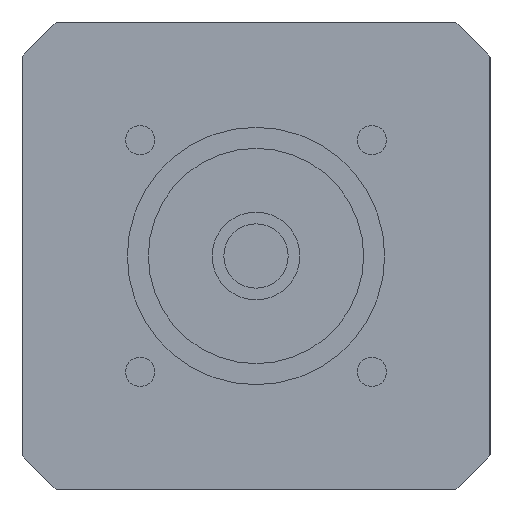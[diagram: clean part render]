
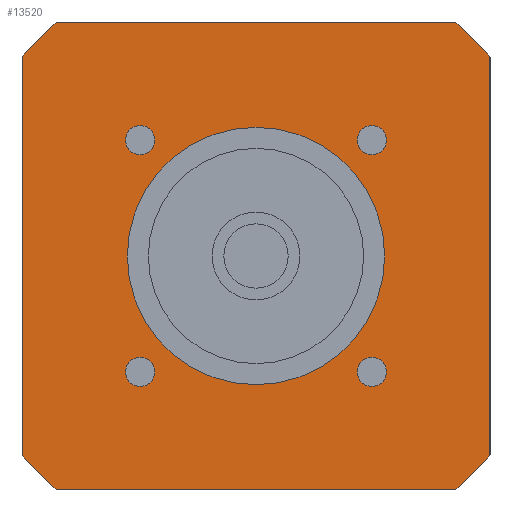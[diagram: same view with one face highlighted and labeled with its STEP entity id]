
A CAD part, left-side view. The second image highlights one B-rep face of the part: STEP entity #13520.
In plain terms, the highlighted planar face has unit normal (-1, 0, 0) as drawn and (0, 0, -1) by its records, which use the part's own axes.
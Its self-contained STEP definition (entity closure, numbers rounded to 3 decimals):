
#8660=CARTESIAN_POINT('',(40.,-34.004,-44.2));
#8670=VERTEX_POINT('',#8660);
#8700=CARTESIAN_POINT('',(0.,0.,
-44.2));
#8710=DIRECTION('',(0.,0.,1.));
#8720=DIRECTION('',(1.,0.,0.));
#8730=AXIS2_PLACEMENT_3D('',#8700,#8710,#8720);
#8740=CIRCLE('',#8730,52.5);
#8750=CARTESIAN_POINT('',(34.004,-40.,-44.2));
#8760=VERTEX_POINT('',#8750);
#8770=EDGE_CURVE('',#8760,#8670,#8740,.T.);
#9080=CARTESIAN_POINT('',(-34.004,-40.,-44.2));
#9090=VERTEX_POINT('',#9080);
#9190=CARTESIAN_POINT('',(-40.,-40.,-44.2));
#9200=DIRECTION('',(1.,0.,0.));
#9210=VECTOR('',#9200,1000.);
#9220=LINE('',#9190,#9210);
#9230=EDGE_CURVE('',#9090,#8760,#9220,.T.);
#11860=CARTESIAN_POINT('',(40.,34.004,-44.2));
#11870=VERTEX_POINT('',#11860);
#11950=CARTESIAN_POINT('',(34.004,40.,-44.2));
#11960=VERTEX_POINT('',#11950);
#11990=CARTESIAN_POINT('',(0.,0.,
-44.2));
#12000=DIRECTION('',(0.,0.,1.));
#12010=DIRECTION('',(1.,0.,0.));
#12020=AXIS2_PLACEMENT_3D('',#11990,#12000,#12010);
#12030=CIRCLE('',#12020,52.5);
#12040=EDGE_CURVE('',#11870,#11960,#12030,.T.);
#12090=CARTESIAN_POINT('',(40.,40.,-44.2));
#12100=DIRECTION('',(0.,0.,1.));
#12110=DIRECTION('',(0.,1.,0.));
#12120=AXIS2_PLACEMENT_3D('',#12090,#12100,#12110);
#12130=PLANE('',#12120);
#12140=CARTESIAN_POINT('',(0.,0.,
-44.2));
#12150=DIRECTION('',(0.,0.,1.));
#12160=DIRECTION('',(1.,0.,0.));
#12170=AXIS2_PLACEMENT_3D('',#12140,#12150,#12160);
#12180=CIRCLE('',#12170,52.5);
#12190=CARTESIAN_POINT('',(-34.004,40.,-44.2));
#12200=VERTEX_POINT('',#12190);
#12210=CARTESIAN_POINT('',(-40.,34.004,-44.2));
#12220=VERTEX_POINT('',#12210);
#12230=EDGE_CURVE('',#12200,#12220,#12180,.T.);
#12240=ORIENTED_EDGE('',*,*,#12230,.F.);
#12250=CARTESIAN_POINT('',(-40.,40.,-44.2));
#12260=DIRECTION('',(0.,-1.,0.));
#12270=VECTOR('',#12260,1000.);
#12280=LINE('',#12250,#12270);
#12290=CARTESIAN_POINT('',(-40.,-34.004,-44.2));
#12300=VERTEX_POINT('',#12290);
#12310=EDGE_CURVE('',#12220,#12300,#12280,.T.);
#12320=ORIENTED_EDGE('',*,*,#12310,.F.);
#12330=CARTESIAN_POINT('',(0.,0.,
-44.2));
#12340=DIRECTION('',(0.,0.,1.));
#12350=DIRECTION('',(1.,0.,0.));
#12360=AXIS2_PLACEMENT_3D('',#12330,#12340,#12350);
#12370=CIRCLE('',#12360,52.5);
#12380=EDGE_CURVE('',#12300,#9090,#12370,.T.);
#12390=ORIENTED_EDGE('',*,*,#12380,.F.);
#12400=ORIENTED_EDGE('',*,*,#9230,.F.);
#12410=ORIENTED_EDGE('',*,*,#8770,.F.);
#12420=CARTESIAN_POINT('',(40.,-40.,-44.2));
#12430=DIRECTION('',(0.,1.,0.));
#12440=VECTOR('',#12430,1000.);
#12450=LINE('',#12420,#12440);
#12460=EDGE_CURVE('',#8670,#11870,#12450,.T.);
#12470=ORIENTED_EDGE('',*,*,#12460,.F.);
#12480=ORIENTED_EDGE('',*,*,#12040,.F.);
#12490=CARTESIAN_POINT('',(40.,40.,-44.2));
#12500=DIRECTION('',(-1.,0.,0.));
#12510=VECTOR('',#12500,1000.);
#12520=LINE('',#12490,#12510);
#12530=EDGE_CURVE('',#11960,#12200,#12520,.T.);
#12540=ORIENTED_EDGE('',*,*,#12530,.F.);
#12550=EDGE_LOOP('',(#12540,#12480,#12470,#12410,#12400,#12390,#12320,
#12240));
#12560=FACE_OUTER_BOUND('',#12550,.T.);
#12570=CARTESIAN_POINT('',(-19.799,19.799,-44.2));
#12580=DIRECTION('',(0.,0.,-1.));
#12590=DIRECTION('',(1.,0.,0.));
#12600=AXIS2_PLACEMENT_3D('',#12570,#12580,#12590);
#12610=CIRCLE('',#12600,2.5);
#12620=CARTESIAN_POINT('',(-17.299,19.799,-44.2));
#12630=VERTEX_POINT('',#12620);
#12640=CARTESIAN_POINT('',(-19.799,17.299,-44.2));
#12650=VERTEX_POINT('',#12640);
#12660=EDGE_CURVE('',#12630,#12650,#12610,.T.);
#12670=ORIENTED_EDGE('',*,*,#12660,.F.);
#12680=CARTESIAN_POINT('',(-19.799,22.299,-44.2));
#12690=VERTEX_POINT('',#12680);
#12700=EDGE_CURVE('',#12650,#12690,#12610,.T.);
#12710=ORIENTED_EDGE('',*,*,#12700,.F.);
#12720=EDGE_CURVE('',#12690,#12630,#12610,.T.);
#12730=ORIENTED_EDGE('',*,*,#12720,.F.);
#12740=EDGE_LOOP('',(#12730,#12710,#12670));
#12750=FACE_BOUND('',#12740,.T.);
#12760=CARTESIAN_POINT('',(19.799,19.799,-44.2));
#12770=DIRECTION('',(0.,0.,-1.));
#12780=DIRECTION('',(1.,0.,0.));
#12790=AXIS2_PLACEMENT_3D('',#12760,#12770,#12780);
#12800=CIRCLE('',#12790,2.5);
#12810=CARTESIAN_POINT('',(22.299,19.799,-44.2));
#12820=VERTEX_POINT('',#12810);
#12830=CARTESIAN_POINT('',(19.799,17.299,-44.2));
#12840=VERTEX_POINT('',#12830);
#12850=EDGE_CURVE('',#12820,#12840,#12800,.T.);
#12860=ORIENTED_EDGE('',*,*,#12850,.F.);
#12870=CARTESIAN_POINT('',(19.799,22.299,-44.2));
#12880=VERTEX_POINT('',#12870);
#12890=EDGE_CURVE('',#12840,#12880,#12800,.T.);
#12900=ORIENTED_EDGE('',*,*,#12890,.F.);
#12910=EDGE_CURVE('',#12880,#12820,#12800,.T.);
#12920=ORIENTED_EDGE('',*,*,#12910,.F.);
#12930=EDGE_LOOP('',(#12920,#12900,#12860));
#12940=FACE_BOUND('',#12930,.T.);
#12950=CARTESIAN_POINT('',(19.799,-19.799,-44.2));
#12960=DIRECTION('',(0.,0.,-1.));
#12970=DIRECTION('',(1.,0.,0.));
#12980=AXIS2_PLACEMENT_3D('',#12950,#12960,#12970);
#12990=CIRCLE('',#12980,2.5);
#13000=CARTESIAN_POINT('',(22.299,-19.799,-44.2));
#13010=VERTEX_POINT('',#13000);
#13020=CARTESIAN_POINT('',(19.799,-22.299,-44.2));
#13030=VERTEX_POINT('',#13020);
#13040=EDGE_CURVE('',#13010,#13030,#12990,.T.);
#13050=ORIENTED_EDGE('',*,*,#13040,.F.);
#13060=CARTESIAN_POINT('',(19.799,-17.299,-44.2));
#13070=VERTEX_POINT('',#13060);
#13080=EDGE_CURVE('',#13030,#13070,#12990,.T.);
#13090=ORIENTED_EDGE('',*,*,#13080,.F.);
#13100=EDGE_CURVE('',#13070,#13010,#12990,.T.);
#13110=ORIENTED_EDGE('',*,*,#13100,.F.);
#13120=EDGE_LOOP('',(#13110,#13090,#13050));
#13130=FACE_BOUND('',#13120,.T.);
#13140=CARTESIAN_POINT('',(-19.799,-19.799,-44.2));
#13150=DIRECTION('',(0.,0.,-1.));
#13160=DIRECTION('',(1.,0.,0.));
#13170=AXIS2_PLACEMENT_3D('',#13140,#13150,#13160);
#13180=CIRCLE('',#13170,2.5);
#13190=CARTESIAN_POINT('',(-17.299,-19.799,-44.2));
#13200=VERTEX_POINT('',#13190);
#13210=CARTESIAN_POINT('',(-19.799,-22.299,-44.2));
#13220=VERTEX_POINT('',#13210);
#13230=EDGE_CURVE('',#13200,#13220,#13180,.T.);
#13240=ORIENTED_EDGE('',*,*,#13230,.F.);
#13250=CARTESIAN_POINT('',(-19.799,-17.299,-44.2));
#13260=VERTEX_POINT('',#13250);
#13270=EDGE_CURVE('',#13220,#13260,#13180,.T.);
#13280=ORIENTED_EDGE('',*,*,#13270,.F.);
#13290=EDGE_CURVE('',#13260,#13200,#13180,.T.);
#13300=ORIENTED_EDGE('',*,*,#13290,.F.);
#13310=EDGE_LOOP('',(#13300,#13280,#13240));
#13320=FACE_BOUND('',#13310,.T.);
#13330=CARTESIAN_POINT('',(0.,0.,
-44.2));
#13340=DIRECTION('',(0.,0.,1.));
#13350=DIRECTION('',(1.,0.,0.));
#13360=AXIS2_PLACEMENT_3D('',#13330,#13340,#13350);
#13370=CIRCLE('',#13360,22.);
#13380=CARTESIAN_POINT('',(0.,22.,-44.2));
#13390=VERTEX_POINT('',#13380);
#13400=CARTESIAN_POINT('',(0.,-22.,-44.2));
#13410=VERTEX_POINT('',#13400);
#13420=EDGE_CURVE('',#13390,#13410,#13370,.T.);
#13430=ORIENTED_EDGE('',*,*,#13420,.T.);
#13440=CARTESIAN_POINT('',(22.,0.,-44.2));
#13450=VERTEX_POINT('',#13440);
#13460=EDGE_CURVE('',#13450,#13390,#13370,.T.);
#13470=ORIENTED_EDGE('',*,*,#13460,.T.);
#13480=EDGE_CURVE('',#13410,#13450,#13370,.T.);
#13490=ORIENTED_EDGE('',*,*,#13480,.T.);
#13500=EDGE_LOOP('',(#13490,#13470,#13430));
#13510=FACE_BOUND('',#13500,.T.);
#13520=ADVANCED_FACE('',(#12560,#12750,#12940,#13130,#13320,#13510),
#12130,.F.);
